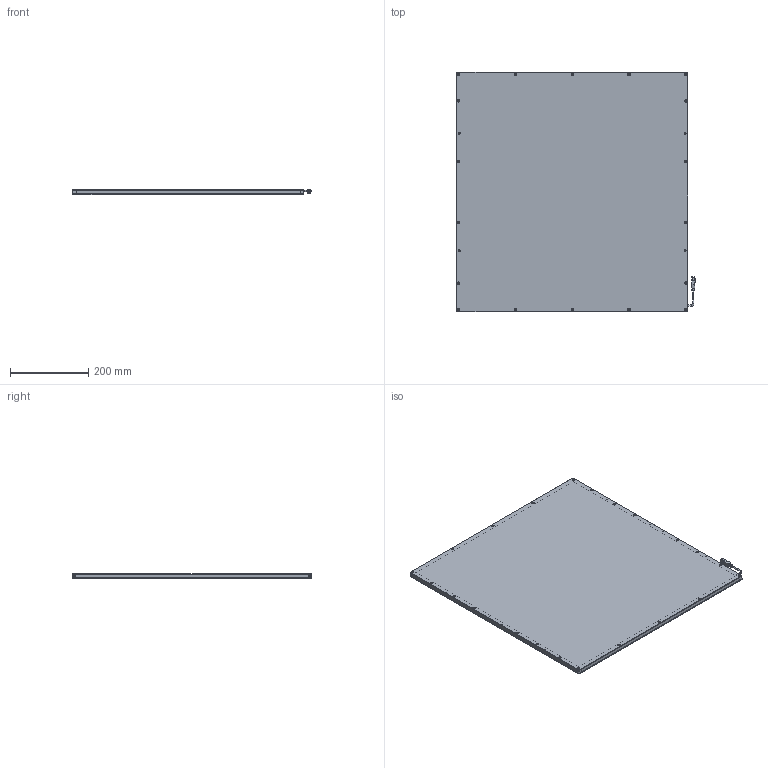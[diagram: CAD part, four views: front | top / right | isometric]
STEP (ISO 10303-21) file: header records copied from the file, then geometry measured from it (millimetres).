
FILE_DESCRIPTION (( 'STEP AP203' ), '1' );
FILE_NAME ('CRT-FLC570550-¼òÒ×3DÍ¼.STEP', '2021-11-29T03:11:56', ( 'Admin' ), ( '' ), 'SwSTEP 2.0', 'SolidWorks 2018', '' );
FILE_SCHEMA (( 'CONFIG_CONTROL_DESIGN' ));
Length unit declared in the file: millimetre
Products named in the file (1): CRT-FLC570550-潠眢3D芞
Bounding box: 609.45 x 610 x 14.85 mm (x, y, z)
Surface area: 814009.6 mm2 (no closed solid volume)
Topology: 0 solids, 18 shells, 264 faces, 911 edges, 647 vertices
Faces by surface type: cylinder 113, plane 108, cone 39, bspline 4
Entity records: 10272 total; most frequent: CARTESIAN_POINT 2319, DIRECTION 1714, ORIENTED_EDGE 1376, EDGE_CURVE 911, VERTEX_POINT 647, AXIS2_PLACEMENT_3D 587, LINE 540, VECTOR 540
